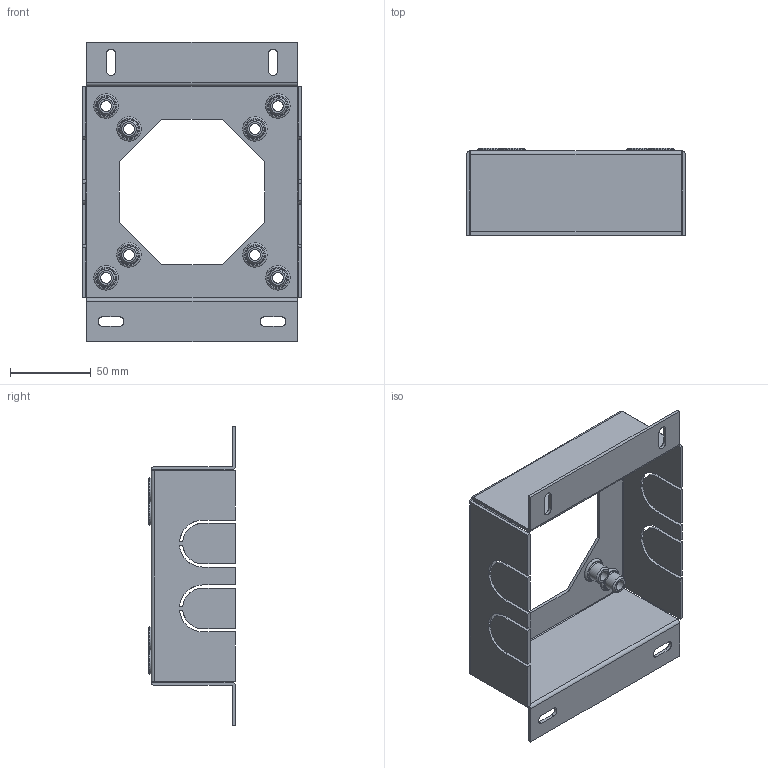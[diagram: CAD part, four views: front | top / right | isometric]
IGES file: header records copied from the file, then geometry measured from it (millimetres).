
Global section: file name: PM00801; native system: Autodesk Inventor 2017; preprocessor: unknown; author: ROSSETTO; date: 20210802.083055; units: millimetre
Bounding box: 135 x 53.5 x 185 mm (x, y, z)
Volume: 91307 mm3; surface area: 94826.3 mm2
Topology: 1 solids, 1 shells, 218 faces, 600 edges, 416 vertices
Faces by surface type: bspline 218
